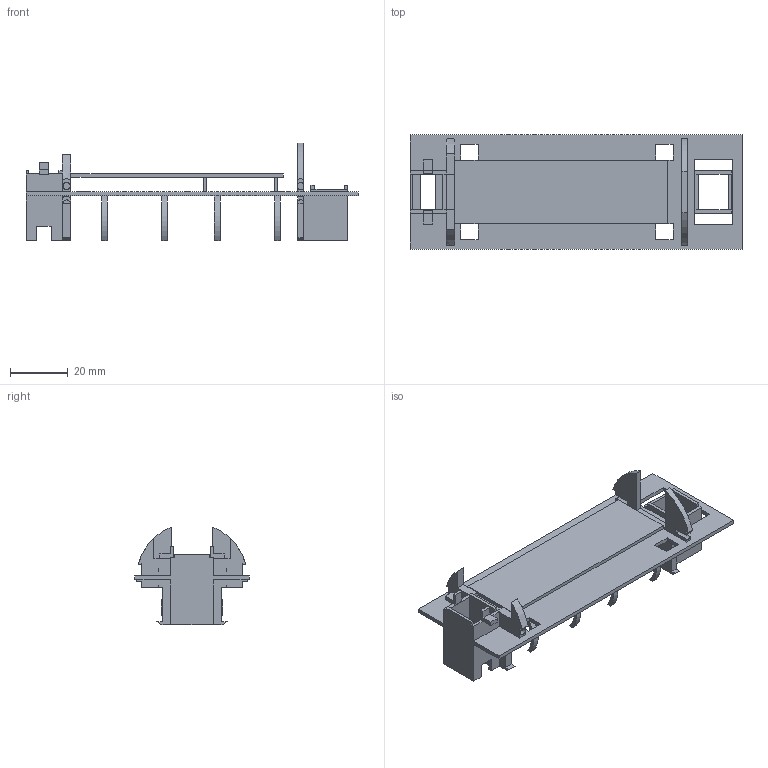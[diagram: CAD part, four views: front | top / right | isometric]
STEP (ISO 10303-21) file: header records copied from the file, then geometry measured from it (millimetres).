
FILE_DESCRIPTION(('Open CASCADE Model'),'2;1');
FILE_NAME('Open CASCADE Shape Model','2026-11-09T05:25:46',('Author'),( 'Open CASCADE'),'Open CASCADE STEP processor 8.0','build123d', 'Unknown');
FILE_SCHEMA(('AUTOMOTIVE_DESIGN { 1 0 10303 214 1 1 1 1 }'));
Length unit declared in the file: millimetre
Products named in the file (1): COMPOUND
Bounding box: 115.15 x 39.7 x 33.91 mm (x, y, z)
Volume: 13276.2 mm3; surface area: 19973.7 mm2
Topology: 1 solids, 1 shells, 240 faces, 692 edges, 458 vertices
Faces by surface type: plane 188, cylinder 52
Full cylindrical faces by diameter (mm): 2.5 x4
Entity records: 16578 total; most frequent: CARTESIAN_POINT 3839, DIRECTION 1998, ORIENTED_EDGE 1384, PCURVE 1384, DEFINITIONAL_REPRESENTATION 1384, LINE 1236, VECTOR 1236, EDGE_CURVE 692
